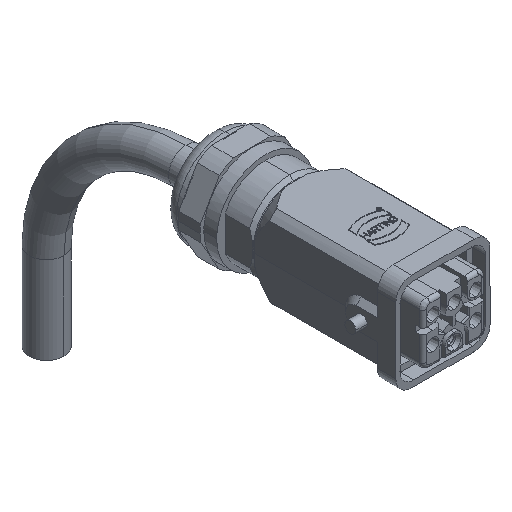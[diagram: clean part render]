
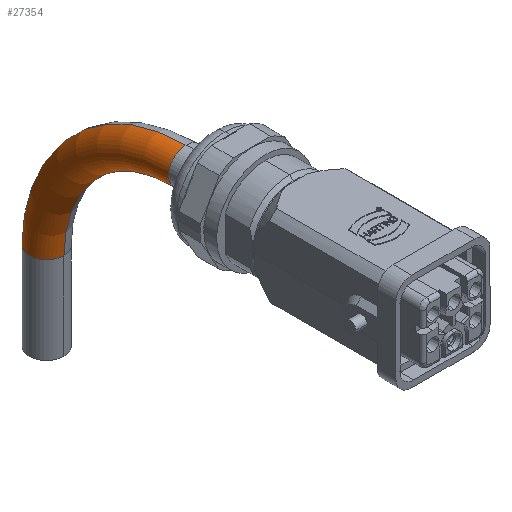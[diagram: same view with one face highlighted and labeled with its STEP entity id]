
A CAD part, isometric view. The second image highlights one B-rep face of the part: STEP entity #27354.
In plain terms, the highlighted toroidal (fillet/blend) face has major radius 40 mm and minor radius 5 mm.
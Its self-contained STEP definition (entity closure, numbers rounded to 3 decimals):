
#441 = DIRECTION ( 'NONE',  ( 0., 0., -1. ) ) ;
#1178 = VERTEX_POINT ( 'NONE', #46834 ) ;
#1579 = DIRECTION ( 'NONE',  ( 0., 1., 0. ) ) ;
#6316 = CIRCLE ( 'NONE', #28802, 45. ) ;
#8484 = TOROIDAL_SURFACE ( 'NONE', #36026, 40., 5. ) ;
#8502 = CARTESIAN_POINT ( 'NONE',  ( 0.002, 73.7, -40.003 ) ) ;
#11772 = VERTEX_POINT ( 'NONE', #13446 ) ;
#12165 = AXIS2_PLACEMENT_3D ( 'NONE', #39393, #1579, #14526 ) ;
#13446 = CARTESIAN_POINT ( 'NONE',  ( 0.002, 73.7, 4.997 ) ) ;
#13805 = CARTESIAN_POINT ( 'NONE',  ( 0.002, 73.7, -40.003 ) ) ;
#14526 = DIRECTION ( 'NONE',  ( 0., 0., 1. ) ) ;
#14775 = DIRECTION ( 'NONE',  ( -1., 0., 0. ) ) ;
#15361 = DIRECTION ( 'NONE',  ( 0., 0., -1. ) ) ;
#17715 = DIRECTION ( 'NONE',  ( 0., -1., 0. ) ) ;
#18149 = VERTEX_POINT ( 'NONE', #31194 ) ;
#19886 = FACE_OUTER_BOUND ( 'NONE', #36509, .T. ) ;
#21474 = CARTESIAN_POINT ( 'NONE',  ( 0.002, 73.7, -40.003 ) ) ;
#21755 = ORIENTED_EDGE ( 'NONE', *, *, #21977, .F. ) ;
#21977 = EDGE_CURVE ( 'NONE', #1178, #18149, #28972, .T. ) ;
#23451 = CARTESIAN_POINT ( 'NONE',  ( 0.002, 73.7, -5.003 ) ) ;
#25231 = EDGE_CURVE ( 'NONE', #25332, #1178, #28058, .T. ) ;
#25332 = VERTEX_POINT ( 'NONE', #23451 ) ;
#25911 = AXIS2_PLACEMENT_3D ( 'NONE', #31877, #15361, #43148 ) ;
#27354 = ADVANCED_FACE ( 'NONE', ( #19886 ), #8484, .T. ) ;
#28058 = CIRCLE ( 'NONE', #29844, 35. ) ;
#28802 = AXIS2_PLACEMENT_3D ( 'NONE', #13805, #40737, #17715 ) ;
#28972 = CIRCLE ( 'NONE', #25911, 5. ) ;
#29844 = AXIS2_PLACEMENT_3D ( 'NONE', #8502, #35318, #39249 ) ;
#31194 = CARTESIAN_POINT ( 'NONE',  ( 0.002, 118.7, -40.003 ) ) ;
#31877 = CARTESIAN_POINT ( 'NONE',  ( 0.002, 113.7, -40.003 ) ) ;
#33596 = ORIENTED_EDGE ( 'NONE', *, *, #42153, .T. ) ;
#35318 = DIRECTION ( 'NONE',  ( -1., 0., 0. ) ) ;
#36026 = AXIS2_PLACEMENT_3D ( 'NONE', #21474, #14775, #441 ) ;
#36248 = ORIENTED_EDGE ( 'NONE', *, *, #25231, .F. ) ;
#36509 = EDGE_LOOP ( 'NONE', ( #33596, #41840, #21755, #36248 ) ) ;
#39249 = DIRECTION ( 'NONE',  ( 0., -1., 0. ) ) ;
#39393 = CARTESIAN_POINT ( 'NONE',  ( 0.002, 73.7, -0.003 ) ) ;
#40550 = CIRCLE ( 'NONE', #12165, 5. ) ;
#40737 = DIRECTION ( 'NONE',  ( -1., 0., 0. ) ) ;
#41840 = ORIENTED_EDGE ( 'NONE', *, *, #49540, .T. ) ;
#42153 = EDGE_CURVE ( 'NONE', #25332, #11772, #40550, .T. ) ;
#43148 = DIRECTION ( 'NONE',  ( 0., 1., 0. ) ) ;
#46834 = CARTESIAN_POINT ( 'NONE',  ( 0.002, 108.7, -40.003 ) ) ;
#49540 = EDGE_CURVE ( 'NONE', #11772, #18149, #6316, .T. ) ;
